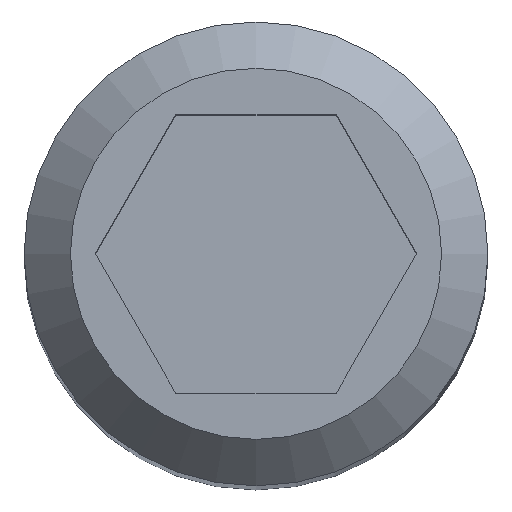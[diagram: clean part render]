
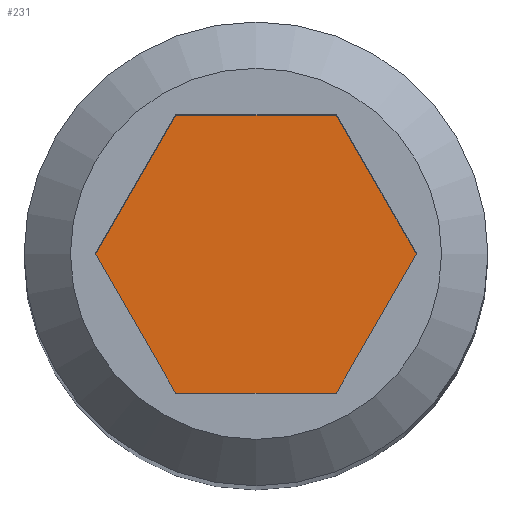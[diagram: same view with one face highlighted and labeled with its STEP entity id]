
A CAD part, top view. The second image highlights one B-rep face of the part: STEP entity #231.
In plain terms, the highlighted planar face has unit normal (0, 0, 1).
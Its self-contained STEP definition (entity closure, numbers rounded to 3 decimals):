
#26=PLANE('',#275);
#42=FACE_OUTER_BOUND('',#58,.T.);
#58=EDGE_LOOP('',(#210,#211,#212,#213,#214,#215));
#70=LINE('',#384,#92);
#72=LINE('',#388,#94);
#74=LINE('',#392,#96);
#76=LINE('',#396,#98);
#78=LINE('',#400,#100);
#80=LINE('',#403,#102);
#92=VECTOR('',#319,1000.);
#94=VECTOR('',#323,1000.);
#96=VECTOR('',#327,1000.);
#98=VECTOR('',#331,1000.);
#100=VECTOR('',#335,1000.);
#102=VECTOR('',#339,1000.);
#123=VERTEX_POINT('',#381);
#124=VERTEX_POINT('',#383);
#125=VERTEX_POINT('',#387);
#126=VERTEX_POINT('',#391);
#127=VERTEX_POINT('',#395);
#128=VERTEX_POINT('',#399);
#147=EDGE_CURVE('',#124,#123,#70,.T.);
#149=EDGE_CURVE('',#125,#124,#72,.T.);
#151=EDGE_CURVE('',#126,#125,#74,.T.);
#153=EDGE_CURVE('',#127,#126,#76,.T.);
#155=EDGE_CURVE('',#128,#127,#78,.T.);
#157=EDGE_CURVE('',#123,#128,#80,.T.);
#210=ORIENTED_EDGE('',*,*,#147,.T.);
#211=ORIENTED_EDGE('',*,*,#157,.T.);
#212=ORIENTED_EDGE('',*,*,#155,.T.);
#213=ORIENTED_EDGE('',*,*,#153,.T.);
#214=ORIENTED_EDGE('',*,*,#151,.T.);
#215=ORIENTED_EDGE('',*,*,#149,.T.);
#231=ADVANCED_FACE('',(#42),#26,.T.);
#275=AXIS2_PLACEMENT_3D('',#404,#340,#341);
#319=DIRECTION('',(0.5,-0.866,0.));
#323=DIRECTION('',(-0.5,-0.866,0.));
#327=DIRECTION('',(-1.,0.,0.));
#331=DIRECTION('',(-0.5,0.866,0.));
#335=DIRECTION('',(0.5,0.866,0.));
#339=DIRECTION('',(1.,0.,0.));
#340=DIRECTION('center_axis',(0.,0.,1.));
#341=DIRECTION('ref_axis',(1.,0.,0.));
#381=CARTESIAN_POINT('',(-0.866,-1.5,-4.));
#383=CARTESIAN_POINT('',(-1.732,0.,-4.));
#384=CARTESIAN_POINT('',(-1.732,0.,-4.));
#387=CARTESIAN_POINT('',(-0.866,1.5,-4.));
#388=CARTESIAN_POINT('',(-0.866,1.5,-4.));
#391=CARTESIAN_POINT('',(0.866,1.5,-4.));
#392=CARTESIAN_POINT('',(0.866,1.5,-4.));
#395=CARTESIAN_POINT('',(1.732,0.,-4.));
#396=CARTESIAN_POINT('',(1.732,0.,-4.));
#399=CARTESIAN_POINT('',(0.866,-1.5,-4.));
#400=CARTESIAN_POINT('',(0.866,-1.5,-4.));
#403=CARTESIAN_POINT('',(-0.866,-1.5,-4.));
#404=CARTESIAN_POINT('Origin',(0.,0.,-4.));
